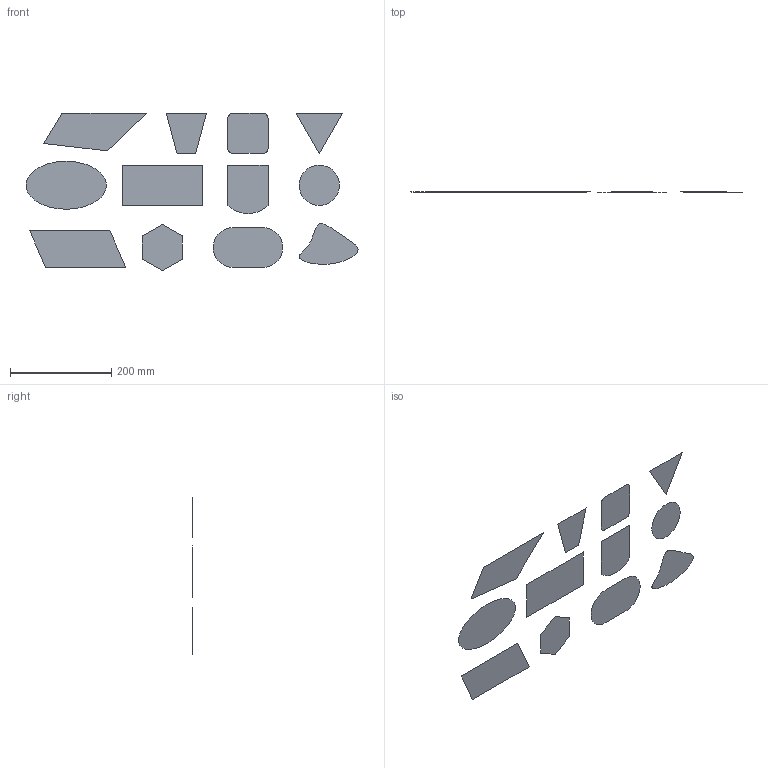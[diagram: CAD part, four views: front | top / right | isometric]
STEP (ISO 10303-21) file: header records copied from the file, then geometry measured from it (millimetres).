
FILE_DESCRIPTION (( 'STEP AP203' ), '1' );
FILE_NAME ('26.4.STEP', '2025-11-17T23:04:01', ( '' ), ( '' ), 'SwSTEP 2.0', 'SolidWorks 2025', '' );
FILE_SCHEMA (( 'CONFIG_CONTROL_DESIGN' ));
Length unit declared in the file: millimetre
Products named in the file (1): 26.4
Bounding box: 656.07 x 0 x 311.02 mm (x, y, z)
Surface area: 93445.1 mm2 (no closed solid volume)
Topology: 0 solids, 12 shells, 12 faces, 47 edges, 47 vertices
Faces by surface type: plane 12
Entity records: 629 total; most frequent: CARTESIAN_POINT 202, DIRECTION 61, EDGE_CURVE 47, ORIENTED_EDGE 47, VERTEX_POINT 47, AXIS2_PLACEMENT_3D 21, LINE 19, VECTOR 19
